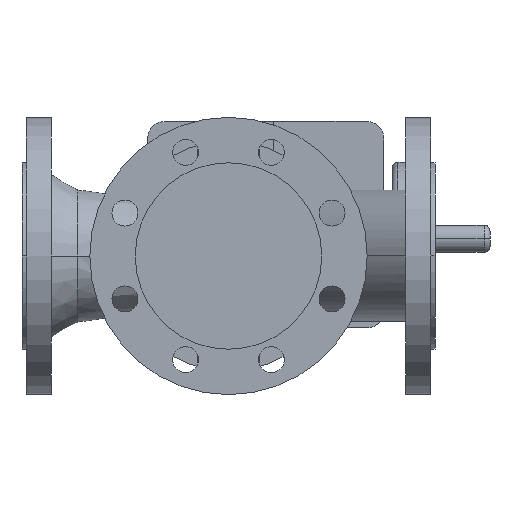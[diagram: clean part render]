
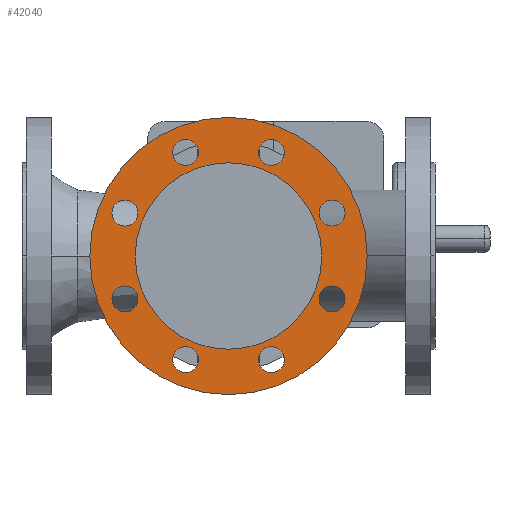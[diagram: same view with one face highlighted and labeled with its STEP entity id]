
A CAD part, front view. The second image highlights one B-rep face of the part: STEP entity #42040.
In plain terms, the highlighted planar face has unit normal (0, -1, 0).
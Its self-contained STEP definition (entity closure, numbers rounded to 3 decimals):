
#3290=CARTESIAN_POINT('',(254.,-146.5,0.));
#3300=VERTEX_POINT('',#3290);
#3350=CARTESIAN_POINT('',(175.,-146.5,0.));
#3360=DIRECTION('',(0.,-1.,0.));
#3370=DIRECTION('',(1.,0.,0.));
#3380=AXIS2_PLACEMENT_3D('',#3350,#3360,#3370);
#3390=CIRCLE('',#3380,79.);
#3400=CARTESIAN_POINT('',(96.,-146.5,0.));
#3410=VERTEX_POINT('',#3400);
#3420=EDGE_CURVE('',#3410,#3300,#3390,.T.);
#10450=CARTESIAN_POINT('',(292.5,-146.5,0.));
#10460=VERTEX_POINT('',#10450);
#10490=CARTESIAN_POINT('',(175.,-146.5,0.));
#10500=DIRECTION('',(0.,1.,0.));
#10510=DIRECTION('',(1.,0.,0.));
#10520=AXIS2_PLACEMENT_3D('',#10490,#10500,#10510);
#10530=CIRCLE('',#10520,117.5);
#10540=CARTESIAN_POINT('',(57.5,-146.5,0.));
#10550=VERTEX_POINT('',#10540);
#10560=EDGE_CURVE('',#10550,#10460,#10530,.T.);
#10870=CARTESIAN_POINT('',(251.769,-146.5,-36.355));
#10880=VERTEX_POINT('',#10870);
#11040=CARTESIAN_POINT('',(273.769,-146.5,-36.355));
#11050=VERTEX_POINT('',#11040);
#11080=CARTESIAN_POINT('',(262.769,-146.5,-36.355));
#11090=DIRECTION('',(0.,1.,0.));
#11100=DIRECTION('',(1.,0.,0.));
#11110=AXIS2_PLACEMENT_3D('',#11080,#11090,#11100);
#11120=CIRCLE('',#11110,11.);
#11130=EDGE_CURVE('',#11050,#10880,#11120,.T.);
#11290=CARTESIAN_POINT('',(273.769,-146.5,36.355));
#11300=VERTEX_POINT('',#11290);
#11330=CARTESIAN_POINT('',(262.769,-146.5,36.355));
#11340=DIRECTION('',(0.,1.,0.));
#11350=DIRECTION('',(1.,0.,0.));
#11360=AXIS2_PLACEMENT_3D('',#11330,#11340,#11350);
#11370=CIRCLE('',#11360,11.);
#11380=CARTESIAN_POINT('',(251.769,-146.5,36.355));
#11390=VERTEX_POINT('',#11380);
#11400=EDGE_CURVE('',#11300,#11390,#11370,.T.);
#11710=CARTESIAN_POINT('',(200.355,-146.5,-87.769));
#11720=VERTEX_POINT('',#11710);
#11880=CARTESIAN_POINT('',(222.355,-146.5,-87.769));
#11890=VERTEX_POINT('',#11880);
#11920=CARTESIAN_POINT('',(211.355,-146.5,-87.769));
#11930=DIRECTION('',(0.,1.,0.));
#11940=DIRECTION('',(1.,0.,0.));
#11950=AXIS2_PLACEMENT_3D('',#11920,#11930,#11940);
#11960=CIRCLE('',#11950,11.);
#11970=EDGE_CURVE('',#11890,#11720,#11960,.T.);
#12130=CARTESIAN_POINT('',(200.355,-146.5,87.769));
#12140=VERTEX_POINT('',#12130);
#12170=CARTESIAN_POINT('',(211.355,-146.5,87.769));
#12180=DIRECTION('',(0.,1.,0.));
#12190=DIRECTION('',(1.,0.,0.));
#12200=AXIS2_PLACEMENT_3D('',#12170,#12180,#12190);
#12210=CIRCLE('',#12200,11.);
#12220=CARTESIAN_POINT('',(222.355,-146.5,87.769));
#12230=VERTEX_POINT('',#12220);
#12240=EDGE_CURVE('',#12140,#12230,#12210,.T.);
#12550=CARTESIAN_POINT('',(149.645,-146.5,-87.769));
#12560=VERTEX_POINT('',#12550);
#12590=CARTESIAN_POINT('',(138.645,-146.5,-87.769));
#12600=DIRECTION('',(0.,1.,0.));
#12610=DIRECTION('',(1.,0.,0.));
#12620=AXIS2_PLACEMENT_3D('',#12590,#12600,#12610);
#12630=CIRCLE('',#12620,11.);
#12640=CARTESIAN_POINT('',(127.645,-146.5,-87.769));
#12650=VERTEX_POINT('',#12640);
#12660=EDGE_CURVE('',#12560,#12650,#12630,.T.);
#12970=CARTESIAN_POINT('',(127.645,-146.5,87.769));
#12980=VERTEX_POINT('',#12970);
#13140=CARTESIAN_POINT('',(149.645,-146.5,87.769));
#13150=VERTEX_POINT('',#13140);
#13180=CARTESIAN_POINT('',(138.645,-146.5,87.769));
#13190=DIRECTION('',(0.,1.,0.));
#13200=DIRECTION('',(1.,0.,0.));
#13210=AXIS2_PLACEMENT_3D('',#13180,#13190,#13200);
#13220=CIRCLE('',#13210,11.);
#13230=EDGE_CURVE('',#13150,#12980,#13220,.T.);
#13390=CARTESIAN_POINT('',(98.231,-146.5,-36.355));
#13400=VERTEX_POINT('',#13390);
#13560=CARTESIAN_POINT('',(76.231,-146.5,-36.355));
#13570=VERTEX_POINT('',#13560);
#13600=CARTESIAN_POINT('',(87.231,-146.5,-36.355));
#13610=DIRECTION('',(0.,1.,0.));
#13620=DIRECTION('',(1.,0.,0.));
#13630=AXIS2_PLACEMENT_3D('',#13600,#13610,#13620);
#13640=CIRCLE('',#13630,11.);
#13650=EDGE_CURVE('',#13570,#13400,#13640,.T.);
#13810=CARTESIAN_POINT('',(98.231,-146.5,36.355));
#13820=VERTEX_POINT('',#13810);
#13850=CARTESIAN_POINT('',(87.231,-146.5,36.355));
#13860=DIRECTION('',(0.,1.,0.));
#13870=DIRECTION('',(1.,0.,0.));
#13880=AXIS2_PLACEMENT_3D('',#13850,#13860,#13870);
#13890=CIRCLE('',#13880,11.);
#13900=CARTESIAN_POINT('',(76.231,-146.5,36.355));
#13910=VERTEX_POINT('',#13900);
#13920=EDGE_CURVE('',#13820,#13910,#13890,.T.);
#41490=CARTESIAN_POINT('',(175.,-146.5,0.));
#41500=DIRECTION('',(0.,1.,0.));
#41510=DIRECTION('',(0.,0.,1.));
#41520=AXIS2_PLACEMENT_3D('',#41490,#41500,#41510);
#41530=PLANE('',#41520);
#41540=ORIENTED_EDGE('',*,*,#13920,.T.);
#41550=EDGE_CURVE('',#13910,#13820,#13890,.T.);
#41560=ORIENTED_EDGE('',*,*,#41550,.T.);
#41570=EDGE_LOOP('',(#41560,#41540));
#41580=FACE_BOUND('',#41570,.T.);
#41590=EDGE_CURVE('',#13400,#13570,#13640,.T.);
#41600=ORIENTED_EDGE('',*,*,#41590,.T.);
#41610=ORIENTED_EDGE('',*,*,#13650,.T.);
#41620=EDGE_LOOP('',(#41610,#41600));
#41630=FACE_BOUND('',#41620,.T.);
#41640=EDGE_CURVE('',#12980,#13150,#13220,.T.);
#41650=ORIENTED_EDGE('',*,*,#41640,.T.);
#41660=ORIENTED_EDGE('',*,*,#13230,.T.);
#41670=EDGE_LOOP('',(#41660,#41650));
#41680=FACE_BOUND('',#41670,.T.);
#41690=EDGE_CURVE('',#12650,#12560,#12630,.T.);
#41700=ORIENTED_EDGE('',*,*,#41690,.T.);
#41710=ORIENTED_EDGE('',*,*,#12660,.T.);
#41720=EDGE_LOOP('',(#41710,#41700));
#41730=FACE_BOUND('',#41720,.T.);
#41740=ORIENTED_EDGE('',*,*,#12240,.T.);
#41750=EDGE_CURVE('',#12230,#12140,#12210,.T.);
#41760=ORIENTED_EDGE('',*,*,#41750,.T.);
#41770=EDGE_LOOP('',(#41760,#41740));
#41780=FACE_BOUND('',#41770,.T.);
#41790=EDGE_CURVE('',#11720,#11890,#11960,.T.);
#41800=ORIENTED_EDGE('',*,*,#41790,.T.);
#41810=ORIENTED_EDGE('',*,*,#11970,.T.);
#41820=EDGE_LOOP('',(#41810,#41800));
#41830=FACE_BOUND('',#41820,.T.);
#41840=ORIENTED_EDGE('',*,*,#11400,.T.);
#41850=EDGE_CURVE('',#11390,#11300,#11370,.T.);
#41860=ORIENTED_EDGE('',*,*,#41850,.T.);
#41870=EDGE_LOOP('',(#41860,#41840));
#41880=FACE_BOUND('',#41870,.T.);
#41890=EDGE_CURVE('',#10880,#11050,#11120,.T.);
#41900=ORIENTED_EDGE('',*,*,#41890,.T.);
#41910=ORIENTED_EDGE('',*,*,#11130,.T.);
#41920=EDGE_LOOP('',(#41910,#41900));
#41930=FACE_BOUND('',#41920,.T.);
#41940=EDGE_CURVE('',#10460,#10550,#10530,.T.);
#41950=ORIENTED_EDGE('',*,*,#41940,.F.);
#41960=ORIENTED_EDGE('',*,*,#10560,.F.);
#41970=EDGE_LOOP('',(#41960,#41950));
#41980=FACE_OUTER_BOUND('',#41970,.T.);
#41990=EDGE_CURVE('',#3300,#3410,#3390,.T.);
#42000=ORIENTED_EDGE('',*,*,#41990,.F.);
#42010=ORIENTED_EDGE('',*,*,#3420,.F.);
#42020=EDGE_LOOP('',(#42010,#42000));
#42030=FACE_BOUND('',#42020,.T.);
#42040=ADVANCED_FACE('',(#41580,#41630,#41680,#41730,#41780,#41830,
#41880,#41930,#41980,#42030),#41530,.F.);
